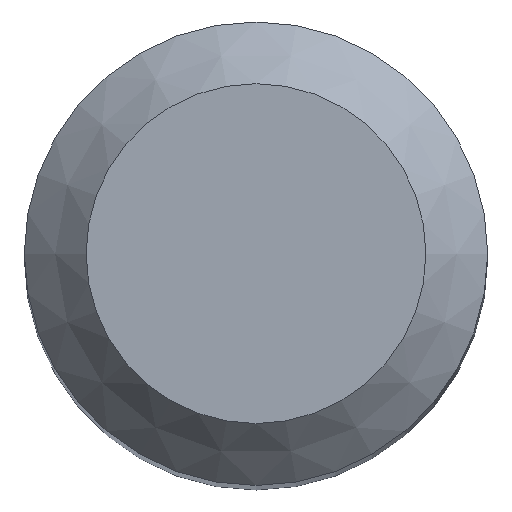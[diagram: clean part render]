
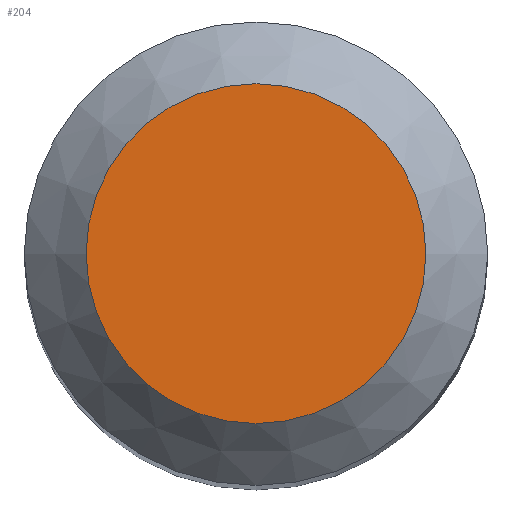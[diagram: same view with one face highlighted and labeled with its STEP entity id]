
A CAD part, top view. The second image highlights one B-rep face of the part: STEP entity #204.
In plain terms, the highlighted planar face has unit normal (0, 0, 1).
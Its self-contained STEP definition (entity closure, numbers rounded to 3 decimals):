
#184=CARTESIAN_POINT('',(-2.2,0.,50.));
#185=VERTEX_POINT('',#184);
#186=CARTESIAN_POINT('',(0.,0.,50.));
#187=DIRECTION('',(0.,0.0,-1.0));
#188=DIRECTION('',(-1.0,0.0,0.));
#189=AXIS2_PLACEMENT_3D('',#186,#187,#188);
#190=CIRCLE('',#189,2.2);
#191=EDGE_CURVE('',#185,#185,#190,.T.);
#196=CARTESIAN_POINT('',(0.,0.,50.));
#197=DIRECTION('',(0.,0.0,-1.0));
#198=DIRECTION('',(-1.0,0.0,0.));
#199=AXIS2_PLACEMENT_3D('',#196,#197,#198);
#200=PLANE('',#199);
#201=ORIENTED_EDGE('',*,*,#191,.F.);
#202=EDGE_LOOP('',(#201));
#203=FACE_OUTER_BOUND('',#202,.T.);
#204=ADVANCED_FACE('',(#203),#200,.F.);
